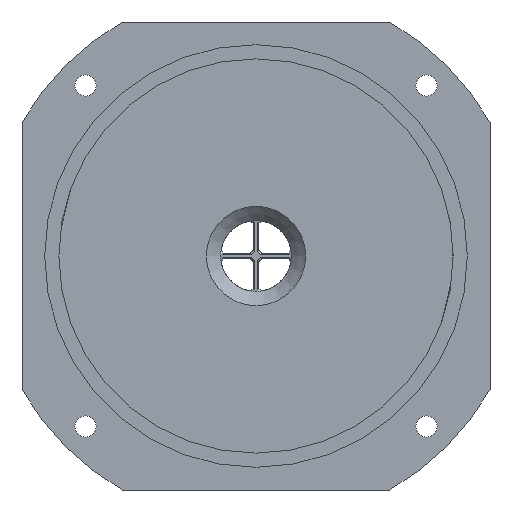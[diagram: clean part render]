
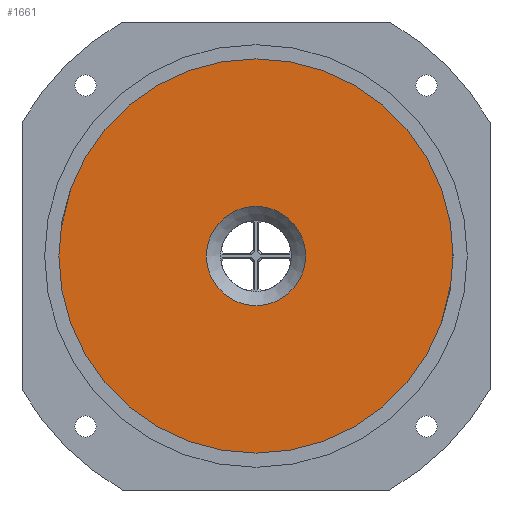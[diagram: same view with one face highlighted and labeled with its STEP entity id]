
A CAD part, front view. The second image highlights one B-rep face of the part: STEP entity #1661.
In plain terms, the highlighted planar face has unit normal (0, -1, 0).
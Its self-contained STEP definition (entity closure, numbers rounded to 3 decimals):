
#20=FACE_BOUND('',#555,.T.);
#372=PLANE('',#1850);
#458=FACE_OUTER_BOUND('',#554,.T.);
#554=EDGE_LOOP('',(#1485));
#555=EDGE_LOOP('',(#1486));
#641=CIRCLE('',#1814,27.8);
#660=CIRCLE('',#1849,7.);
#790=VERTEX_POINT('',#2801);
#809=VERTEX_POINT('',#2867);
#1011=EDGE_CURVE('',#790,#790,#641,.T.);
#1042=EDGE_CURVE('',#809,#809,#660,.T.);
#1485=ORIENTED_EDGE('',*,*,#1011,.T.);
#1486=ORIENTED_EDGE('',*,*,#1042,.F.);
#1661=ADVANCED_FACE('',(#458,#20),#372,.F.);
#1814=AXIS2_PLACEMENT_3D('',#2803,#2235,#2236);
#1849=AXIS2_PLACEMENT_3D('',#2869,#2317,#2318);
#1850=AXIS2_PLACEMENT_3D('',#2870,#2319,#2320);
#2235=DIRECTION('center_axis',(0.,-1.,0.));
#2236=DIRECTION('ref_axis',(1.,0.,0.));
#2317=DIRECTION('center_axis',(0.,-1.,0.));
#2318=DIRECTION('ref_axis',(-1.,0.,0.));
#2319=DIRECTION('center_axis',(0.,1.,0.));
#2320=DIRECTION('ref_axis',(-1.,0.,0.));
#2801=CARTESIAN_POINT('',(-27.8,2.,0.));
#2803=CARTESIAN_POINT('Origin',(0.,2.,0.));
#2867=CARTESIAN_POINT('',(7.,2.,0.));
#2869=CARTESIAN_POINT('Origin',(0.,2.,0.));
#2870=CARTESIAN_POINT('Origin',(0.,2.,0.));
